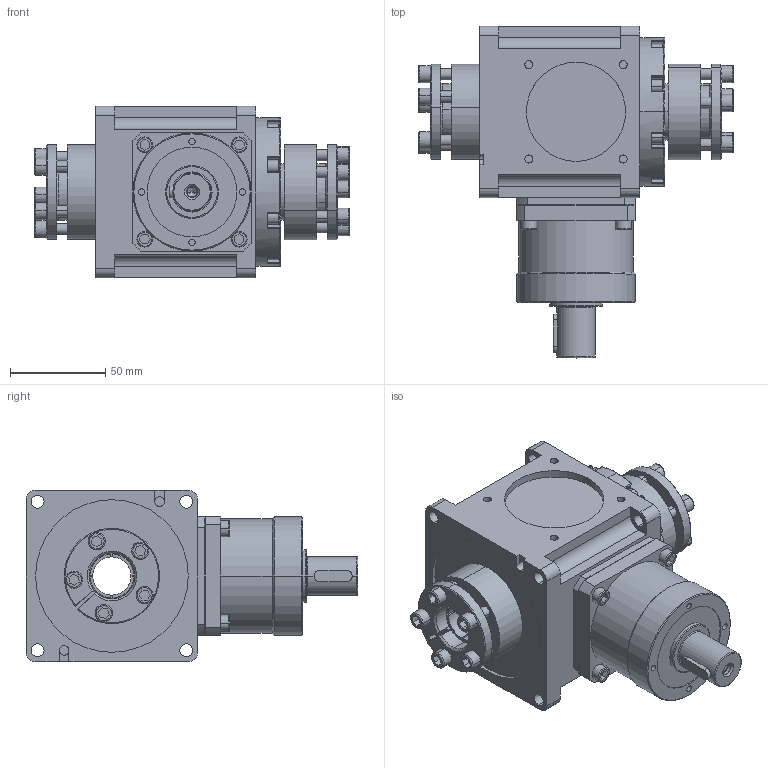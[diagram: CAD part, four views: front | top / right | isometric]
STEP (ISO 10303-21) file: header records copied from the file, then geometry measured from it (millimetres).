
FILE_DESCRIPTION (( 'STEP AP214' ), '1' );
FILE_NAME ('CCT090A-002-2HP.STEP', '2025-06-03T02:24:54', ( '微软用户' ), ( '微软中国' ), 'SwSTEP 2.0', 'SolidWorks 2024', '' );
FILE_SCHEMA (( 'AUTOMOTIVE_DESIGN' ));
Length unit declared in the file: millimetre
Products named in the file (4): 涨紧套[24×50]_ZJ3-24×50; CCW090A-002-2HP箱体; CCW090A输入模块; CCT090A-002-2HP
Assembly tree (4 placements, depth 2):
  CCT090A-002-2HP
    CCW090A-002-2HP箱体
    涨紧套[24×50]_ZJ3-24×50  x2
    CCW090A输入模块
Bounding box: 165 x 174 x 90 mm (x, y, z)
Volume: 874377.1 mm3; surface area: 133615.1 mm2
Topology: 16 solids, 16 shells, 815 faces, 1979 edges, 1266 vertices
Faces by surface type: plane 344, cylinder 306, cone 72, torus 53, sphere 20, bspline 20
Entity records: 20026 total; most frequent: CARTESIAN_POINT 3797, DIRECTION 3549, ORIENTED_EDGE 3204, EDGE_CURVE 1602, AXIS2_PLACEMENT_3D 1356, VERTEX_POINT 1024, VECTOR 837, LINE 837
